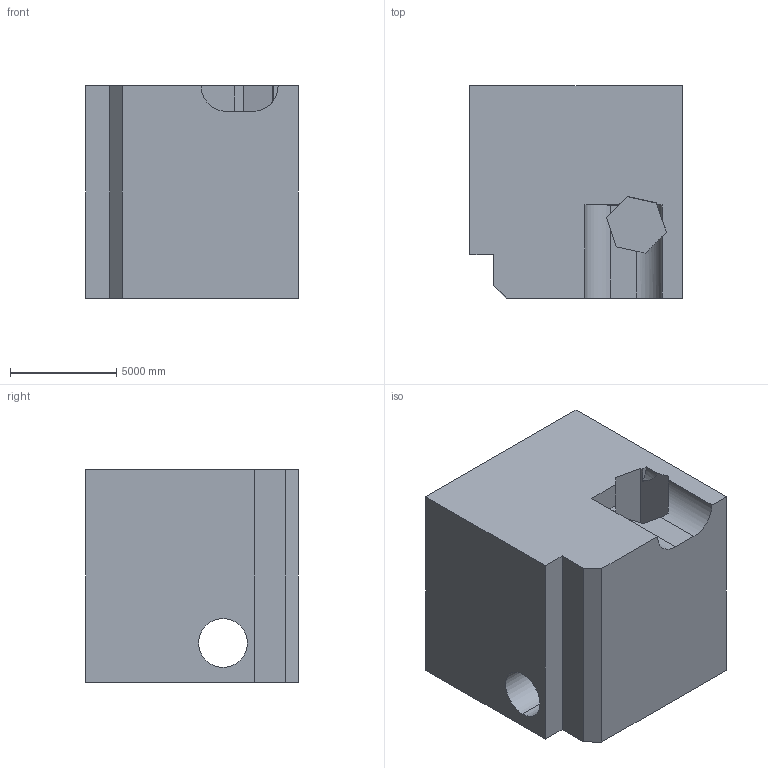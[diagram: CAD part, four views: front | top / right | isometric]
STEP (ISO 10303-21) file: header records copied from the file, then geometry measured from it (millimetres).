
FILE_DESCRIPTION (( 'STEP AP203' ), '1' );
FILE_NAME ('480.STEP', '2022-07-29T11:27:07', ( 'user' ), ( '' ), 'SwSTEP 2.0', 'SolidWorks 2021', '' );
FILE_SCHEMA (( 'CONFIG_CONTROL_DESIGN' ));
Length unit declared in the file: centimetre
Products named in the file (1): 480
Bounding box: 10000 x 10000 x 10000 mm (x, y, z)
Volume: 887857361913.1 mm3; surface area: 709557428.6 mm2
Topology: 1 solids, 1 shells, 25 faces, 69 edges, 46 vertices
Faces by surface type: plane 20, cylinder 5
Entity records: 872 total; most frequent: CARTESIAN_POINT 156, ORIENTED_EDGE 138, DIRECTION 124, EDGE_CURVE 69, VECTOR 56, LINE 56, VERTEX_POINT 46, AXIS2_PLACEMENT_3D 34
